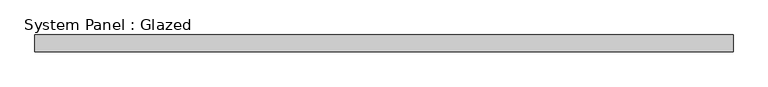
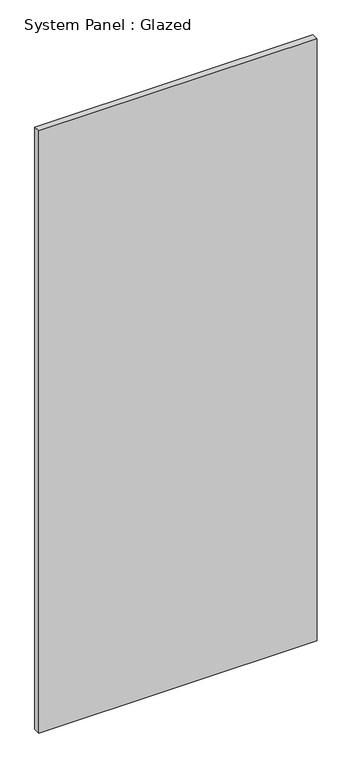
"""IFC4 building model written with IfcOpenShell, lengths in millimetres: plate geometry, System Panel : Glazed."""

from ifc_helpers import new_model, si_unit, origin, origin_with_axes, place, context, project, spatial, polyline, outline, extrude, source, transform, mapped, element, save


def system_panel_glazed_8b38113c(model_context):
    return source(origin(), model_context, "Body", "SweptSolid", [
        extrude(outline(polyline([(525.0000001, 24.5), (-525.0000001, 24.5), (-525.0000001, 49.5), (525.0000001, 49.5), (525.0000001, 24.5)])), origin_with_axes(), (0.0, 0.0, 1.0), 2400.0),
    ])


if __name__ == "__main__":
    model = new_model("IFC4")
    model_context = context("Model", 3, world=origin())
    ifc_project = project(units=[si_unit("LENGTHUNIT", "METRE", prefix="MILLI")], contexts=[model_context])
    site = spatial("IfcSite", under=ifc_project)
    building = spatial("IfcBuilding", under=site)
    placement = place(None, origin())
    system_panel_glazed_shape = system_panel_glazed_8b38113c(model_context)
    element("IfcPlate", 1, ObjectType="System Panel : Glazed", at=placement, inside=building, context=model_context, shape_type="MappedRepresentation", body=[
        mapped(system_panel_glazed_shape, transform((0.0, 0.0, 0.0), x_axis=(1.0, 0.0, 0.0), y_axis=(0.0, 1.0, 0.0), z_axis=(0.0, 0.0, 1.0))),
    ])
    save(model, "model.ifc")
